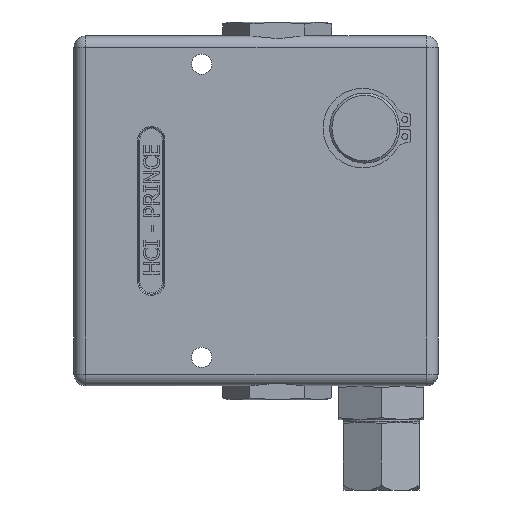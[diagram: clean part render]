
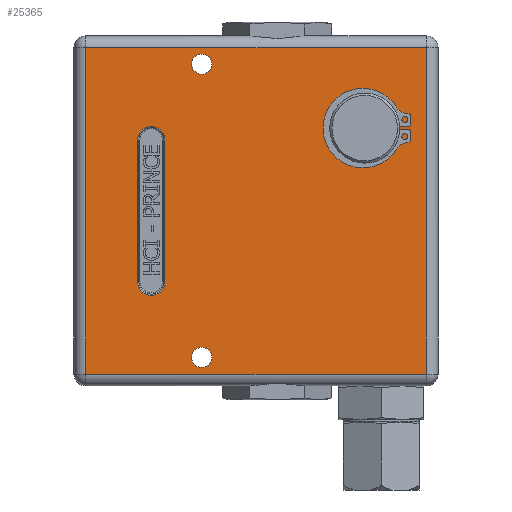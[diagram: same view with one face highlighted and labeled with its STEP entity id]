
A CAD part, left-side view. The second image highlights one B-rep face of the part: STEP entity #25365.
In plain terms, the highlighted planar face has unit normal (-1, 0, 0).
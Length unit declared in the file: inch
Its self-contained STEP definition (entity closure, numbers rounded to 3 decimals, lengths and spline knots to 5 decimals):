
#3026=CARTESIAN_POINT('',(-0.875,1.0,-4.3505));
#3027=VERTEX_POINT('',#3026);
#3028=CARTESIAN_POINT('',(-0.875,1.0,-4.218));
#3029=DIRECTION('',(1.0,0.0,0.0));
#3030=DIRECTION('',(0.0,0.0,1.0));
#3031=AXIS2_PLACEMENT_3D('',#3028,#3029,#3030);
#3032=CIRCLE('',#3031,0.1325);
#3033=EDGE_CURVE('',#3027,#3027,#3032,.T.);
#3054=CARTESIAN_POINT('',(-0.875,1.0,-0.4755));
#3055=VERTEX_POINT('',#3054);
#3056=CARTESIAN_POINT('',(-0.875,1.0,-0.343));
#3057=DIRECTION('',(1.0,0.0,0.0));
#3058=DIRECTION('',(0.0,0.0,1.0));
#3059=AXIS2_PLACEMENT_3D('',#3056,#3057,#3058);
#3060=CIRCLE('',#3059,0.1325);
#3061=EDGE_CURVE('',#3055,#3055,#3060,.T.);
#3304=CARTESIAN_POINT('',(-0.875,2.531,-0.1245));
#3305=VERTEX_POINT('',#3304);
#3313=CARTESIAN_POINT('',(-0.875,-1.969,-0.1245));
#3314=VERTEX_POINT('',#3313);
#3315=CARTESIAN_POINT('',(-0.875,2.531,-0.1245));
#3316=DIRECTION('',(0.0,-1.0,0.0));
#3317=VECTOR('',#3316,4.5);
#3318=LINE('',#3315,#3317);
#3319=EDGE_CURVE('',#3305,#3314,#3318,.T.);
#3728=CARTESIAN_POINT('',(-0.875,-1.6195,-1.187));
#3729=VERTEX_POINT('',#3728);
#3730=CARTESIAN_POINT('',(-0.875,-1.156,-1.187));
#3731=DIRECTION('',(1.0,0.0,0.0));
#3732=DIRECTION('',(0.0,1.0,0.0));
#3733=AXIS2_PLACEMENT_3D('',#3730,#3731,#3732);
#3734=CIRCLE('',#3733,0.4635);
#3735=EDGE_CURVE('',#3729,#3729,#3734,.T.);
#25137=CARTESIAN_POINT('',(-0.875,1.845,-3.216));
#25138=VERTEX_POINT('',#25137);
#25156=CARTESIAN_POINT('',(-0.875,1.845,-1.346));
#25157=VERTEX_POINT('',#25156);
#25165=CARTESIAN_POINT('',(-0.875,1.845,-1.346));
#25166=DIRECTION('',(0.0,0.0,-1.0));
#25167=VECTOR('',#25166,1.87);
#25168=LINE('',#25165,#25167);
#25169=EDGE_CURVE('',#25157,#25138,#25168,.T.);
#25179=CARTESIAN_POINT('',(-0.875,1.485,-3.216));
#25180=VERTEX_POINT('',#25179);
#25198=CARTESIAN_POINT('',(-0.875,1.665,-3.216));
#25199=DIRECTION('',(-1.0,0.0,0.0));
#25200=DIRECTION('',(0.0,0.0,-1.0));
#25201=AXIS2_PLACEMENT_3D('',#25198,#25199,#25200);
#25202=CIRCLE('',#25201,0.18);
#25203=EDGE_CURVE('',#25138,#25180,#25202,.T.);
#25215=CARTESIAN_POINT('',(-0.875,1.485,-1.346));
#25216=VERTEX_POINT('',#25215);
#25224=CARTESIAN_POINT('',(-0.875,1.665,-1.346));
#25225=DIRECTION('',(-1.0,0.0,0.0));
#25226=DIRECTION('',(0.0,0.0,1.0));
#25227=AXIS2_PLACEMENT_3D('',#25224,#25225,#25226);
#25228=CIRCLE('',#25227,0.18);
#25229=EDGE_CURVE('',#25216,#25157,#25228,.T.);
#25248=CARTESIAN_POINT('',(-0.875,1.485,-3.216));
#25249=DIRECTION('',(0.0,0.0,1.0));
#25250=VECTOR('',#25249,1.87);
#25251=LINE('',#25248,#25250);
#25252=EDGE_CURVE('',#25180,#25216,#25251,.T.);
#25320=CARTESIAN_POINT('',(-0.875,0.281,-2.281));
#25321=DIRECTION('',(1.0,0.0,0.0));
#25322=DIRECTION('',(0.0,0.0,-1.0));
#25323=AXIS2_PLACEMENT_3D('',#25320,#25321,#25322);
#25324=PLANE('',#25323);
#25325=CARTESIAN_POINT('',(-0.875,-1.969,-4.4375));
#25326=VERTEX_POINT('',#25325);
#25327=CARTESIAN_POINT('',(-0.875,2.531,-4.4375));
#25328=VERTEX_POINT('',#25327);
#25329=CARTESIAN_POINT('',(-0.875,-1.969,-4.4375));
#25330=DIRECTION('',(0.0,1.0,0.0));
#25331=VECTOR('',#25330,4.5);
#25332=LINE('',#25329,#25331);
#25333=EDGE_CURVE('',#25326,#25328,#25332,.T.);
#25334=ORIENTED_EDGE('',*,*,#25333,.F.);
#25335=CARTESIAN_POINT('',(-0.875,-1.969,-0.1245));
#25336=DIRECTION('',(0.0,0.0,-1.0));
#25337=VECTOR('',#25336,4.313);
#25338=LINE('',#25335,#25337);
#25339=EDGE_CURVE('',#3314,#25326,#25338,.T.);
#25340=ORIENTED_EDGE('',*,*,#25339,.F.);
#25341=ORIENTED_EDGE('',*,*,#3319,.F.);
#25342=CARTESIAN_POINT('',(-0.875,2.531,-4.4375));
#25343=DIRECTION('',(0.0,0.0,1.0));
#25344=VECTOR('',#25343,4.313);
#25345=LINE('',#25342,#25344);
#25346=EDGE_CURVE('',#25328,#3305,#25345,.T.);
#25347=ORIENTED_EDGE('',*,*,#25346,.F.);
#25348=EDGE_LOOP('',(#25334,#25340,#25341,#25347));
#25349=FACE_OUTER_BOUND('',#25348,.T.);
#25350=ORIENTED_EDGE('',*,*,#3033,.T.);
#25351=EDGE_LOOP('',(#25350));
#25352=FACE_BOUND('',#25351,.T.);
#25353=ORIENTED_EDGE('',*,*,#3061,.T.);
#25354=EDGE_LOOP('',(#25353));
#25355=FACE_BOUND('',#25354,.T.);
#25356=ORIENTED_EDGE('',*,*,#3735,.T.);
#25357=EDGE_LOOP('',(#25356));
#25358=FACE_BOUND('',#25357,.T.);
#25359=ORIENTED_EDGE('',*,*,#25169,.F.);
#25360=ORIENTED_EDGE('',*,*,#25229,.F.);
#25361=ORIENTED_EDGE('',*,*,#25252,.F.);
#25362=ORIENTED_EDGE('',*,*,#25203,.F.);
#25363=EDGE_LOOP('',(#25359,#25360,#25361,#25362));
#25364=FACE_BOUND('',#25363,.T.);
#25365=ADVANCED_FACE('',(#25349,#25352,#25355,#25358,#25364),#25324,.F.);
